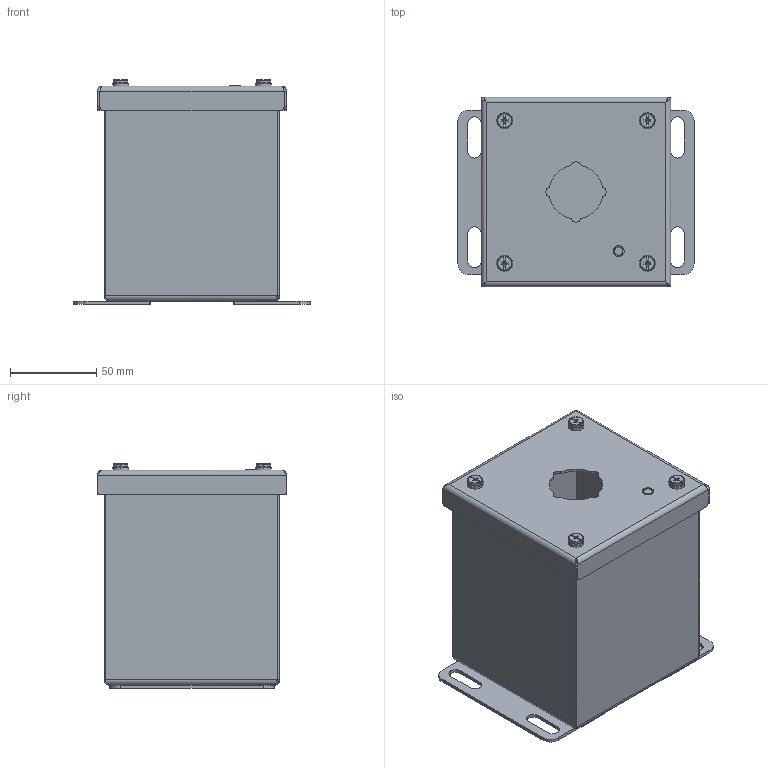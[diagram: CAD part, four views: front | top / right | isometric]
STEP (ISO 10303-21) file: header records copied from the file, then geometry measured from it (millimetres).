
FILE_DESCRIPTION((''),'2;1');
FILE_NAME('MODEL-394_ASM','2021-06-07T08:50:32',('mikek'),('SAGINAW CONTROL & ENGINEERING'),'CREO PARAMETRIC BY PTC INC, 2017260','CREO PARAMETRIC BY PTC INC, 2017260','');
FILE_SCHEMA(('AUTOMOTIVE_DESIGN { 1 0 10303 214 1 1 1 1 }'));
Length unit declared in the file: inch
Products named in the file (10): MODEL-394-BDY; MODEL-394-DR; 100097; 102197; 101966; 100012; 102599; 102534; MODEL-394-GSKT; MODEL-394_ASM
Assembly tree (16 placements, depth 2):
  MODEL-394_ASM
    MODEL-394-BDY
    MODEL-394-DR
    100097
    102197  x2
    101966
    100012
    102599  x4
    102534  x4
    MODEL-394-GSKT
Bounding box: 136.53 x 109.54 x 130.14 mm (x, y, z)
Volume: 139986.2 mm3; surface area: 184357.6 mm2
Topology: 19 solids, 19 shells, 727 faces, 1798 edges, 1052 vertices
Faces by surface type: plane 267, cylinder 236, bspline 108, torus 88, cone 28
Entity records: 21244 total; most frequent: CARTESIAN_POINT 5807, DIRECTION 2044, ORIENTED_EDGE 1984, EDGE_CURVE 992, PRESENTATION_STYLE_ASSIGNMENT 904, STYLED_ITEM 904, CURVE_STYLE 828, AXIS2_PLACEMENT_3D 739
